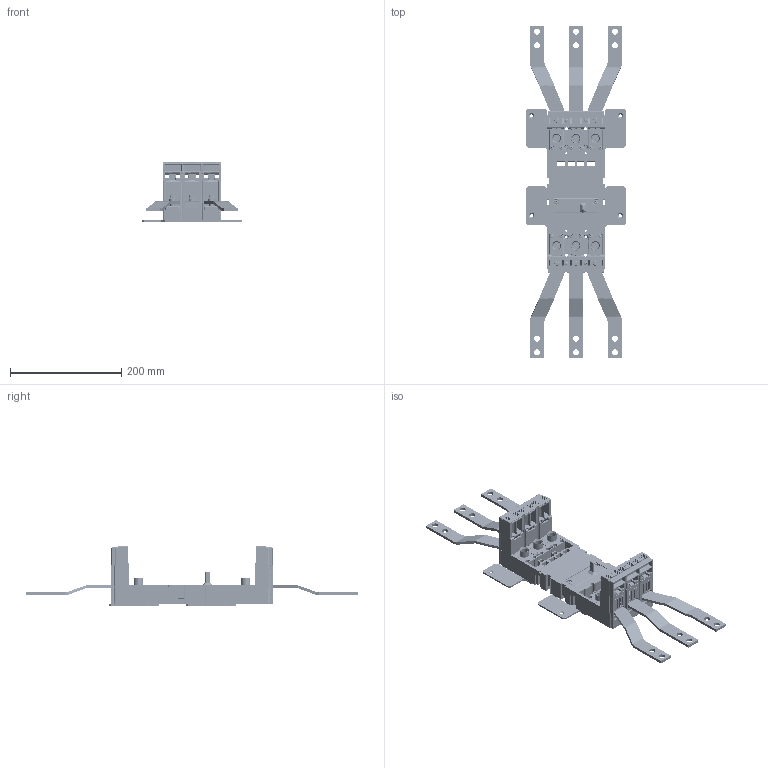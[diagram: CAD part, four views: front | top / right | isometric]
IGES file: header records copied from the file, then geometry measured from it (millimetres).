
Start section: SolidWorks IGES file using analytic representation for surfaces
Global section: file name: U:\14_RD\05_Technical_office\04_Office\Hrdinova\3D modely - IGES\Modeion - BD250\ZO-BD-0250-300__CS-BD-JT75__OD-BD-MT75.IGS; native system: SolidWorks 2011; preprocessor: SolidWorks 2011; author: adhrja3; date: 170619.085437; units: millimetre
Bounding box: 180 x 598 x 108 mm (x, y, z)
Surface area: 460030.8 mm2 (no closed solid volume)
Topology: 0 solids, 0 shells, 5277 faces, 49859 edges, 49659 vertices
Faces by surface type: bspline 3407, revolution 1870
